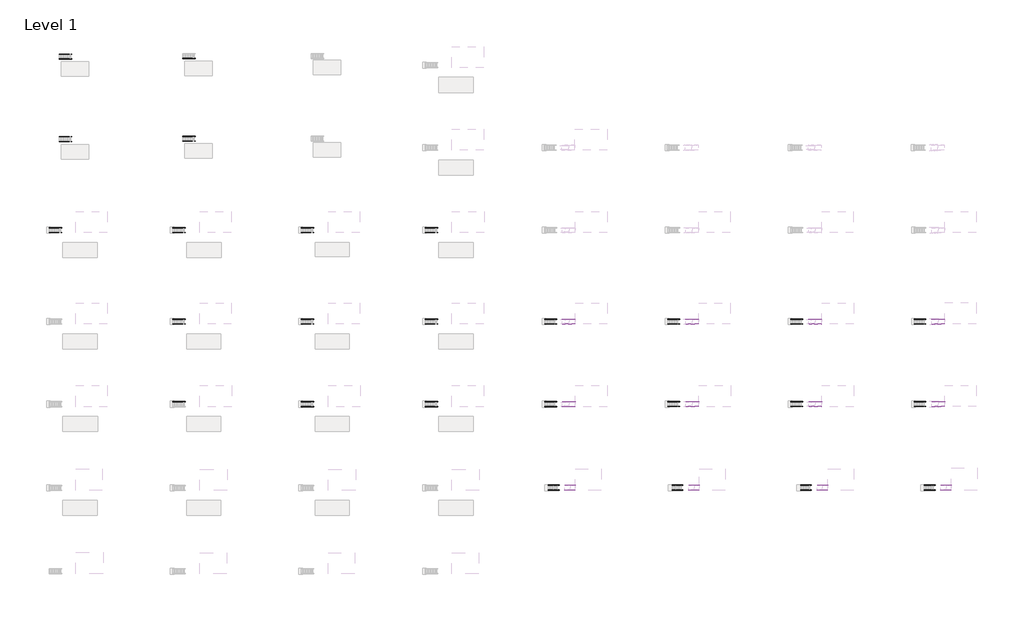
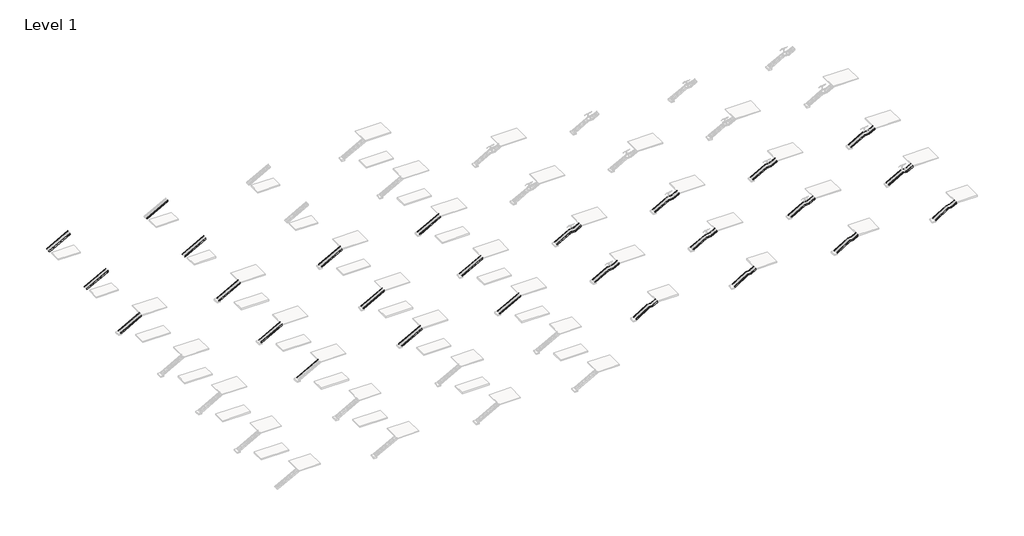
# One storey, part 35 of 36: 98 members.
"""IFC4 building model written with IfcOpenShell, lengths in millimetres."""

from ifc_helpers import new_model, si_unit, frame, origin, place, context, project, spatial, polyline, outline, extrude, element, save

model = new_model("IFC4")

# Units and contexts
model_context = context("Model", 3, world=origin())
ifc_project = project(units=[si_unit("LENGTHUNIT", "METRE", prefix="MILLI")], contexts=[model_context])

# Site, building, storey
site = spatial("IfcSite", under=ifc_project)
building = spatial("IfcBuilding", under=site)
storey = spatial("IfcBuildingStorey", under=building, Name="Level 1", Elevation=0.0)

# Members
placement = place(None, origin())
element("IfcMember", 1, ObjectType="Stringer - 2\" Width", at=placement, inside=storey, context=model_context, shape_type="SweptSolid", body=[
    extrude(outline(polyline([(179.6072535, 84297.8048368), (0.0, 84297.8048368), (0.0, 84572.2385153), (1916.7928571, 87926.6260153), (2208.8928571, 87849.0546432), (179.6072535, 84297.8048368)])), frame((0.0, -17954.2990002, 0.0), z_axis=(0.0, 1.0, 0.0), x_axis=(0.0, 0.0, 1.0)), (0.0, 0.0, 1.0), 50.8),
])
element("IfcMember", 2, ObjectType="Stringer - 2\" Width", at=placement, inside=storey, context=model_context, shape_type="SweptSolid", body=[
    extrude(outline(polyline([(179.6072535, 84297.8048368), (0.0, 84297.8048368), (0.0, 84572.2385153), (1916.7928571, 87926.6260153), (2208.8928571, 87849.0546432), (179.6072535, 84297.8048368)])), frame((0.0, -18919.4990002, 0.0), z_axis=(0.0, 1.0, 0.0), x_axis=(0.0, 0.0, 1.0)), (0.0, 0.0, 1.0), 50.8),
])
element("IfcMember", 3, ObjectType="Stringer - 2\" Width", at=placement, inside=storey, context=model_context, shape_type="SweptSolid", body=[
    extrude(outline(polyline([(2208.8928571, 88915.8546432), (1916.7928571, 88993.4260153), (2746.037898, 90444.6048368), (3048.0, 90444.6048368), (3048.0, 90384.2921432), (2208.8928571, 88915.8546432)])), frame((0.0, -17954.2990002, 0.0), z_axis=(0.0, 1.0, 0.0), x_axis=(0.0, 0.0, 1.0)), (0.0, 0.0, 1.0), 50.8),
])
element("IfcMember", 4, ObjectType="Stringer - 2\" Width", at=placement, inside=storey, context=model_context, shape_type="SweptSolid", body=[
    extrude(outline(polyline([(2208.8928571, 88915.8546432), (1916.7928571, 88993.4260153), (2746.037898, 90444.6048368), (3048.0, 90444.6048368), (3048.0, 90384.2921432), (2208.8928571, 88915.8546432)])), frame((0.0, -18919.4990002, 0.0), z_axis=(0.0, 1.0, 0.0), x_axis=(0.0, 0.0, 1.0)), (0.0, 0.0, 1.0), 50.8),
])
element("IfcMember", 5, ObjectType="Stringer - 2\" Width", at=placement, inside=storey, context=model_context, shape_type="SweptSolid", body=[
    extrude(outline(polyline([(1916.7928571, 88993.4260153), (2208.8928571, 88915.8546432), (2208.8928571, 87849.0546432), (1916.7928571, 87926.6260153), (1916.7928571, 88993.4260153)])), frame((0.0, -17954.2990002, 0.0), z_axis=(0.0, 1.0, 0.0), x_axis=(0.0, 0.0, 1.0)), (0.0, 0.0, 1.0), 50.8),
])
element("IfcMember", 6, ObjectType="Stringer - 2\" Width", at=placement, inside=storey, context=model_context, shape_type="SweptSolid", body=[
    extrude(outline(polyline([(2208.8928571, 87849.0546432), (1916.7928571, 87926.6260153), (1916.7928571, 88993.4260153), (2208.8928571, 88915.8546432), (2208.8928571, 87849.0546432)])), frame((0.0, -18919.4990002, 0.0), z_axis=(0.0, 1.0, 0.0), x_axis=(0.0, 0.0, 1.0)), (0.0, 0.0, 1.0), 50.8),
])
element("IfcMember", 7, ObjectType="Stringer - 2\" Width", at=placement, inside=storey, context=model_context, shape_type="SweptSolid", body=[
    extrude(outline(polyline([(177.1989729, 12116.1449767), (0.0, 12116.1449767), (0.0, 12401.2806113), (2753.9260175, 17450.1449767), (3086.6535184, 17450.1449767), (177.1989729, 12116.1449767)])), frame((0.0, 35007.264764, 0.0), z_axis=(0.0, 1.0, 0.0), x_axis=(0.0, 0.0, 1.0)), (0.0, 0.0, 1.0), 50.8),
])
element("IfcMember", 8, ObjectType="Stringer - 2\" Width", at=placement, inside=storey, context=model_context, shape_type="SweptSolid", body=[
    extrude(outline(polyline([(177.1989729, 12116.1449767), (0.0, 12116.1449767), (0.0, 12401.2806113), (2753.9260175, 17450.1449767), (3086.6535184, 17450.1449767), (177.1989729, 12116.1449767)])), frame((0.0, 34042.064764, 0.0), z_axis=(0.0, 1.0, 0.0), x_axis=(0.0, 0.0, 1.0)), (0.0, 0.0, 1.0), 50.8),
])
element("IfcMember", 9, ObjectType="Stringer - 2\" Width", at=placement, inside=storey, context=model_context, shape_type="SweptSolid", body=[
    extrude(outline(polyline([(177.1989729, -12447.6373599), (0.0, -12447.6373599), (0.0, -12162.5017253), (2753.9260175, -7113.6373599), (3086.6535184, -7113.6373599), (177.1989729, -12447.6373599)])), frame((0.0, 34930.0739583, 0.0), z_axis=(0.0, 1.0, 0.0), x_axis=(0.0, 0.0, 1.0)), (0.0, 0.0, 1.0), 50.8),
])
element("IfcMember", 10, ObjectType="Stringer - 2\" Width", at=placement, inside=storey, context=model_context, shape_type="SweptSolid", body=[
    extrude(outline(polyline([(177.1989729, -12447.6373599), (0.0, -12447.6373599), (0.0, -12162.5017253), (2753.9260175, -7113.6373599), (3086.6535184, -7113.6373599), (177.1989729, -12447.6373599)])), frame((0.0, 33964.8739583, 0.0), z_axis=(0.0, 1.0, 0.0), x_axis=(0.0, 0.0, 1.0)), (0.0, 0.0, 1.0), 50.8),
])
element("IfcMember", 11, ObjectType="Stringer - 2\" Width", at=placement, inside=storey, context=model_context, shape_type="SweptSolid", body=[
    extrude(outline(polyline([(177.1989729, -14498.1164794), (0.0, -14498.1164794), (0.0, -14212.9808448), (2753.9260175, -9164.1164794), (3086.6535184, -9164.1164794), (177.1989729, -14498.1164794)])), frame((0.0, 16760.4395941, 0.0), z_axis=(0.0, 1.0, 0.0), x_axis=(0.0, 0.0, 1.0)), (0.0, 0.0, 1.0), 50.8),
])
element("IfcMember", 12, ObjectType="Stringer - 2\" Width", at=placement, inside=storey, context=model_context, shape_type="SweptSolid", body=[
    extrude(outline(polyline([(177.1989729, -14498.1164794), (0.0, -14498.1164794), (0.0, -14212.9808448), (2753.9260175, -9164.1164794), (3086.6535184, -9164.1164794), (177.1989729, -14498.1164794)])), frame((0.0, 15795.2395941, 0.0), z_axis=(0.0, 1.0, 0.0), x_axis=(0.0, 0.0, 1.0)), (0.0, 0.0, 1.0), 50.8),
])
element("IfcMember", 13, ObjectType="Stringer - 2\" Width", at=placement, inside=storey, context=model_context, shape_type="SweptSolid", body=[
    extrude(outline(polyline([(177.1989729, 10178.8572927), (0.0, 10178.8572927), (0.0, 10463.9929272), (2753.9260175, 15512.8572927), (3086.6535184, 15512.8572927), (177.1989729, 10178.8572927)])), frame((0.0, -17954.2990002, 0.0), z_axis=(0.0, 1.0, 0.0), x_axis=(0.0, 0.0, 1.0)), (0.0, 0.0, 1.0), 50.8),
])
element("IfcMember", 14, ObjectType="Stringer - 2\" Width", at=placement, inside=storey, context=model_context, shape_type="SweptSolid", body=[
    extrude(outline(polyline([(177.1989729, 10178.8572927), (0.0, 10178.8572927), (0.0, 10463.9929272), (2753.9260175, 15512.8572927), (3086.6535184, 15512.8572927), (177.1989729, 10178.8572927)])), frame((0.0, -1486.3855758, 0.0), z_axis=(0.0, 1.0, 0.0), x_axis=(0.0, 0.0, 1.0)), (0.0, 0.0, 1.0), 50.8),
])
element("IfcMember", 15, ObjectType="Stringer - 2\" Width", at=placement, inside=storey, context=model_context, shape_type="SweptSolid", body=[
    extrude(outline(polyline([(177.1989729, 10178.8572927), (0.0, 10178.8572927), (0.0, 10463.9929272), (2753.9260175, 15512.8572927), (3086.6535184, 15512.8572927), (177.1989729, 10178.8572927)])), frame((0.0, -2451.5855758, 0.0), z_axis=(0.0, 1.0, 0.0), x_axis=(0.0, 0.0, 1.0)), (0.0, 0.0, 1.0), 50.8),
])
element("IfcMember", 16, ObjectType="Stringer - 2\" Width", at=placement, inside=storey, context=model_context, shape_type="SweptSolid", body=[
    extrude(outline(polyline([(177.1989729, 10178.8572927), (0.0, 10178.8572927), (0.0, 10463.9929272), (2753.9260175, 15512.8572927), (3086.6535184, 15512.8572927), (177.1989729, 10178.8572927)])), frame((0.0, 16760.4395941, 0.0), z_axis=(0.0, 1.0, 0.0), x_axis=(0.0, 0.0, 1.0)), (0.0, 0.0, 1.0), 50.8),
])
element("IfcMember", 17, ObjectType="Stringer - 2\" Width", at=placement, inside=storey, context=model_context, shape_type="SweptSolid", body=[
    extrude(outline(polyline([(177.1989729, 10178.8572927), (0.0, 10178.8572927), (0.0, 10463.9929272), (2753.9260175, 15512.8572927), (3086.6535184, 15512.8572927), (177.1989729, 10178.8572927)])), frame((0.0, 15795.2395941, 0.0), z_axis=(0.0, 1.0, 0.0), x_axis=(0.0, 0.0, 1.0)), (0.0, 0.0, 1.0), 50.8),
])
element("IfcMember", 18, ObjectType="Stringer - 2\" Width", at=placement, inside=storey, context=model_context, shape_type="SweptSolid", body=[
    extrude(outline(polyline([(177.1989729, 35782.0572927), (0.0, 35782.0572927), (0.0, 36067.1929272), (2753.9260175, 41116.0572927), (3086.6535184, 41116.0572927), (177.1989729, 35782.0572927)])), frame((0.0, -17954.2990002, 0.0), z_axis=(0.0, 1.0, 0.0), x_axis=(0.0, 0.0, 1.0)), (0.0, 0.0, 1.0), 50.8),
])
element("IfcMember", 19, ObjectType="Stringer - 2\" Width", at=placement, inside=storey, context=model_context, shape_type="SweptSolid", body=[
    extrude(outline(polyline([(177.1989729, 35782.0572927), (0.0, 35782.0572927), (0.0, 36067.1929272), (2753.9260175, 41116.0572927), (3086.6535184, 41116.0572927), (177.1989729, 35782.0572927)])), frame((0.0, -18919.4990002, 0.0), z_axis=(0.0, 1.0, 0.0), x_axis=(0.0, 0.0, 1.0)), (0.0, 0.0, 1.0), 50.8),
])
element("IfcMember", 20, ObjectType="Stringer - 2\" Width", at=placement, inside=storey, context=model_context, shape_type="SweptSolid", body=[
    extrude(outline(polyline([(177.1989729, 35782.0572927), (0.0, 35782.0572927), (0.0, 36067.1929272), (2753.9260175, 41116.0572927), (3086.6535184, 41116.0572927), (177.1989729, 35782.0572927)])), frame((0.0, -1486.3855758, 0.0), z_axis=(0.0, 1.0, 0.0), x_axis=(0.0, 0.0, 1.0)), (0.0, 0.0, 1.0), 50.8),
])
element("IfcMember", 21, ObjectType="Stringer - 2\" Width", at=placement, inside=storey, context=model_context, shape_type="SweptSolid", body=[
    extrude(outline(polyline([(177.1989729, 35782.0572927), (0.0, 35782.0572927), (0.0, 36067.1929272), (2753.9260175, 41116.0572927), (3086.6535184, 41116.0572927), (177.1989729, 35782.0572927)])), frame((0.0, -2451.5855758, 0.0), z_axis=(0.0, 1.0, 0.0), x_axis=(0.0, 0.0, 1.0)), (0.0, 0.0, 1.0), 50.8),
])
element("IfcMember", 22, ObjectType="Stringer - 2\" Width", at=placement, inside=storey, context=model_context, shape_type="SweptSolid", body=[
    extrude(outline(polyline([(177.1989729, 35782.0572927), (0.0, 35782.0572927), (0.0, 36067.1929272), (2753.9260175, 41116.0572927), (3086.6535184, 41116.0572927), (177.1989729, 35782.0572927)])), frame((0.0, 16760.4395941, 0.0), z_axis=(0.0, 1.0, 0.0), x_axis=(0.0, 0.0, 1.0)), (0.0, 0.0, 1.0), 50.8),
])
element("IfcMember", 23, ObjectType="Stringer - 2\" Width", at=placement, inside=storey, context=model_context, shape_type="SweptSolid", body=[
    extrude(outline(polyline([(177.1989729, 35782.0572927), (0.0, 35782.0572927), (0.0, 36067.1929272), (2753.9260175, 41116.0572927), (3086.6535184, 41116.0572927), (177.1989729, 35782.0572927)])), frame((0.0, 15795.2395941, 0.0), z_axis=(0.0, 1.0, 0.0), x_axis=(0.0, 0.0, 1.0)), (0.0, 0.0, 1.0), 50.8),
])
element("IfcMember", 24, ObjectType="Stringer - 2\" Width", at=placement, inside=storey, context=model_context, shape_type="SweptSolid", body=[
    extrude(outline(polyline([(177.1989729, 60459.0310647), (0.0, 60459.0310647), (0.0, 60744.1666993), (2753.9260175, 65793.0310647), (3086.6535184, 65793.0310647), (177.1989729, 60459.0310647)])), frame((0.0, -17954.2990002, 0.0), z_axis=(0.0, 1.0, 0.0), x_axis=(0.0, 0.0, 1.0)), (0.0, 0.0, 1.0), 50.8),
])
element("IfcMember", 25, ObjectType="Stringer - 2\" Width", at=placement, inside=storey, context=model_context, shape_type="SweptSolid", body=[
    extrude(outline(polyline([(177.1989729, 60459.0310647), (0.0, 60459.0310647), (0.0, 60744.1666993), (2753.9260175, 65793.0310647), (3086.6535184, 65793.0310647), (177.1989729, 60459.0310647)])), frame((0.0, -18919.4990002, 0.0), z_axis=(0.0, 1.0, 0.0), x_axis=(0.0, 0.0, 1.0)), (0.0, 0.0, 1.0), 50.8),
])
element("IfcMember", 26, ObjectType="Stringer - 2\" Width", at=placement, inside=storey, context=model_context, shape_type="SweptSolid", body=[
    extrude(outline(polyline([(177.1989729, 60459.0310647), (0.0, 60459.0310647), (0.0, 60744.1666993), (2753.9260175, 65793.0310647), (3086.6535184, 65793.0310647), (177.1989729, 60459.0310647)])), frame((0.0, -1486.3855758, 0.0), z_axis=(0.0, 1.0, 0.0), x_axis=(0.0, 0.0, 1.0)), (0.0, 0.0, 1.0), 50.8),
])
element("IfcMember", 27, ObjectType="Stringer - 2\" Width", at=placement, inside=storey, context=model_context, shape_type="SweptSolid", body=[
    extrude(outline(polyline([(177.1989729, 60459.0310647), (0.0, 60459.0310647), (0.0, 60744.1666993), (2753.9260175, 65793.0310647), (3086.6535184, 65793.0310647), (177.1989729, 60459.0310647)])), frame((0.0, -2451.5855758, 0.0), z_axis=(0.0, 1.0, 0.0), x_axis=(0.0, 0.0, 1.0)), (0.0, 0.0, 1.0), 50.8),
])
element("IfcMember", 28, ObjectType="Stringer - 2\" Width", at=placement, inside=storey, context=model_context, shape_type="SweptSolid", body=[
    extrude(outline(polyline([(177.1989729, 60459.0310647), (0.0, 60459.0310647), (0.0, 60744.1666993), (2753.9260175, 65793.0310647), (3086.6535184, 65793.0310647), (177.1989729, 60459.0310647)])), frame((0.0, 16760.4395941, 0.0), z_axis=(0.0, 1.0, 0.0), x_axis=(0.0, 0.0, 1.0)), (0.0, 0.0, 1.0), 50.8),
])
element("IfcMember", 29, ObjectType="Stringer - 2\" Width", at=placement, inside=storey, context=model_context, shape_type="SweptSolid", body=[
    extrude(outline(polyline([(177.1989729, 60459.0310647), (0.0, 60459.0310647), (0.0, 60744.1666993), (2753.9260175, 65793.0310647), (3086.6535184, 65793.0310647), (177.1989729, 60459.0310647)])), frame((0.0, 15795.2395941, 0.0), z_axis=(0.0, 1.0, 0.0), x_axis=(0.0, 0.0, 1.0)), (0.0, 0.0, 1.0), 50.8),
])
element("IfcMember", 30, ObjectType="Stringer - 2\" Width", at=placement, inside=storey, context=model_context, shape_type="SweptSolid", body=[
    extrude(outline(polyline([(177.1989729, -12447.6373599), (0.0, -12447.6373599), (0.0, -12162.5017253), (2753.9260175, -7113.6373599), (3086.6535184, -7113.6373599), (177.1989729, -12447.6373599)])), frame((0.0, 51397.9873827, 0.0), z_axis=(0.0, 1.0, 0.0), x_axis=(0.0, 0.0, 1.0)), (0.0, 0.0, 1.0), 50.8),
])
element("IfcMember", 31, ObjectType="Stringer - 2\" Width", at=placement, inside=storey, context=model_context, shape_type="SweptSolid", body=[
    extrude(outline(polyline([(177.1989729, -12447.6373599), (0.0, -12447.6373599), (0.0, -12162.5017253), (2753.9260175, -7113.6373599), (3086.6535184, -7113.6373599), (177.1989729, -12447.6373599)])), frame((0.0, 50432.7873827, 0.0), z_axis=(0.0, 1.0, 0.0), x_axis=(0.0, 0.0, 1.0)), (0.0, 0.0, 1.0), 50.8),
])
element("IfcMember", 32, ObjectType="Stringer - 2\" Width", at=placement, inside=storey, context=model_context, shape_type="SweptSolid", body=[
    extrude(outline(polyline([(177.1989729, 12116.1449767), (0.0, 12116.1449767), (0.0, 12401.2806113), (2753.9260175, 17450.1449767), (3086.6535184, 17450.1449767), (177.1989729, 12116.1449767)])), frame((0.0, 50535.7904464, 0.0), z_axis=(0.0, 1.0, 0.0), x_axis=(0.0, 0.0, 1.0)), (0.0, 0.0, 1.0), 50.8),
])
element("IfcMember", 33, ObjectType="Stringer - 2\" Width", at=placement, inside=storey, context=model_context, shape_type="SweptSolid", body=[
    extrude(outline(polyline([(179.6072535, 84297.8048368), (0.0, 84297.8048368), (0.0, 84572.2385153), (1916.7928571, 87926.6260153), (2208.8928571, 87849.0546432), (179.6072535, 84297.8048368)])), frame((0.0, -1486.3855758, 0.0), z_axis=(0.0, 1.0, 0.0), x_axis=(0.0, 0.0, 1.0)), (0.0, 0.0, 1.0), 50.8),
])
element("IfcMember", 34, ObjectType="Stringer - 2\" Width", at=placement, inside=storey, context=model_context, shape_type="SweptSolid", body=[
    extrude(outline(polyline([(179.6072535, 84297.8048368), (0.0, 84297.8048368), (0.0, 84572.2385153), (1916.7928571, 87926.6260153), (2208.8928571, 87849.0546432), (179.6072535, 84297.8048368)])), frame((0.0, -2451.5855758, 0.0), z_axis=(0.0, 1.0, 0.0), x_axis=(0.0, 0.0, 1.0)), (0.0, 0.0, 1.0), 50.8),
])
element("IfcMember", 35, ObjectType="Stringer - 2\" Width", at=placement, inside=storey, context=model_context, shape_type="SweptSolid", body=[
    extrude(outline(polyline([(2208.8928571, 88915.8546432), (1916.7928571, 88993.4260153), (2746.037898, 90444.6048368), (3048.0, 90444.6048368), (3048.0, 90384.2921432), (2208.8928571, 88915.8546432)])), frame((0.0, -1486.3855758, 0.0), z_axis=(0.0, 1.0, 0.0), x_axis=(0.0, 0.0, 1.0)), (0.0, 0.0, 1.0), 50.8),
])
element("IfcMember", 36, ObjectType="Stringer - 2\" Width", at=placement, inside=storey, context=model_context, shape_type="SweptSolid", body=[
    extrude(outline(polyline([(2208.8928571, 88915.8546432), (1916.7928571, 88993.4260153), (2746.037898, 90444.6048368), (3048.0, 90444.6048368), (3048.0, 90384.2921432), (2208.8928571, 88915.8546432)])), frame((0.0, -2451.5855758, 0.0), z_axis=(0.0, 1.0, 0.0), x_axis=(0.0, 0.0, 1.0)), (0.0, 0.0, 1.0), 50.8),
])
element("IfcMember", 37, ObjectType="Stringer - 2\" Width", at=placement, inside=storey, context=model_context, shape_type="SweptSolid", body=[
    extrude(outline(polyline([(1916.7928571, 88993.4260153), (2208.8928571, 88915.8546432), (2208.8928571, 87849.0546432), (1916.7928571, 87926.6260153), (1916.7928571, 88993.4260153)])), frame((0.0, -1486.3855758, 0.0), z_axis=(0.0, 1.0, 0.0), x_axis=(0.0, 0.0, 1.0)), (0.0, 0.0, 1.0), 50.8),
])
element("IfcMember", 38, ObjectType="Stringer - 2\" Width", at=placement, inside=storey, context=model_context, shape_type="SweptSolid", body=[
    extrude(outline(polyline([(2208.8928571, 87849.0546432), (1916.7928571, 87926.6260153), (1916.7928571, 88993.4260153), (2208.8928571, 88915.8546432), (2208.8928571, 87849.0546432)])), frame((0.0, -2451.5855758, 0.0), z_axis=(0.0, 1.0, 0.0), x_axis=(0.0, 0.0, 1.0)), (0.0, 0.0, 1.0), 50.8),
])
element("IfcMember", 39, ObjectType="Stringer - 2\" Width", at=placement, inside=storey, context=model_context, shape_type="SweptSolid", body=[
    extrude(outline(polyline([(179.6072535, 108850.2736551), (0.0, 108850.2736551), (0.0, 109124.7073335), (1916.7928571, 112479.0948335), (2208.8928571, 112401.5234614), (179.6072535, 108850.2736551)])), frame((0.0, -17945.4846057, 0.0), z_axis=(0.0, 1.0, 0.0), x_axis=(0.0, 0.0, 1.0)), (0.0, 0.0, 1.0), 50.8),
])
element("IfcMember", 40, ObjectType="Stringer - 2\" Width", at=placement, inside=storey, context=model_context, shape_type="SweptSolid", body=[
    extrude(outline(polyline([(179.6072535, 108850.2736551), (0.0, 108850.2736551), (0.0, 109124.7073335), (1916.7928571, 112479.0948335), (2208.8928571, 112401.5234614), (179.6072535, 108850.2736551)])), frame((0.0, -18910.6846057, 0.0), z_axis=(0.0, 1.0, 0.0), x_axis=(0.0, 0.0, 1.0)), (0.0, 0.0, 1.0), 50.8),
])
element("IfcMember", 41, ObjectType="Stringer - 2\" Width", at=placement, inside=storey, context=model_context, shape_type="SweptSolid", body=[
    extrude(outline(polyline([(2208.8928571, 113468.3234614), (1916.7928571, 113545.8948335), (2746.037898, 114997.0736551), (3048.0, 114997.0736551), (3048.0, 114936.7609614), (2208.8928571, 113468.3234614)])), frame((0.0, -17945.4846057, 0.0), z_axis=(0.0, 1.0, 0.0), x_axis=(0.0, 0.0, 1.0)), (0.0, 0.0, 1.0), 50.8),
])
element("IfcMember", 42, ObjectType="Stringer - 2\" Width", at=placement, inside=storey, context=model_context, shape_type="SweptSolid", body=[
    extrude(outline(polyline([(2208.8928571, 113468.3234614), (1916.7928571, 113545.8948335), (2746.037898, 114997.0736551), (3048.0, 114997.0736551), (3048.0, 114936.7609614), (2208.8928571, 113468.3234614)])), frame((0.0, -18910.6846057, 0.0), z_axis=(0.0, 1.0, 0.0), x_axis=(0.0, 0.0, 1.0)), (0.0, 0.0, 1.0), 50.8),
])
element("IfcMember", 43, ObjectType="Stringer - 2\" Width", at=placement, inside=storey, context=model_context, shape_type="SweptSolid", body=[
    extrude(outline(polyline([(1916.7928571, 113545.8948335), (2208.8928571, 113468.3234614), (2208.8928571, 112401.5234614), (1916.7928571, 112479.0948335), (1916.7928571, 113545.8948335)])), frame((0.0, -17945.4846057, 0.0), z_axis=(0.0, 1.0, 0.0), x_axis=(0.0, 0.0, 1.0)), (0.0, 0.0, 1.0), 50.8),
])
element("IfcMember", 44, ObjectType="Stringer - 2\" Width", at=placement, inside=storey, context=model_context, shape_type="SweptSolid", body=[
    extrude(outline(polyline([(2208.8928571, 112401.5234614), (1916.7928571, 112479.0948335), (1916.7928571, 113545.8948335), (2208.8928571, 113468.3234614), (2208.8928571, 112401.5234614)])), frame((0.0, -18910.6846057, 0.0), z_axis=(0.0, 1.0, 0.0), x_axis=(0.0, 0.0, 1.0)), (0.0, 0.0, 1.0), 50.8),
])
element("IfcMember", 45, ObjectType="Stringer - 2\" Width", at=placement, inside=storey, context=model_context, shape_type="SweptSolid", body=[
    extrude(outline(polyline([(179.6072535, 108850.2736551), (0.0, 108850.2736551), (0.0, 109124.7073335), (1916.7928571, 112479.0948335), (2208.8928571, 112401.5234614), (179.6072535, 108850.2736551)])), frame((0.0, -1477.5711813, 0.0), z_axis=(0.0, 1.0, 0.0), x_axis=(0.0, 0.0, 1.0)), (0.0, 0.0, 1.0), 50.8),
])
element("IfcMember", 46, ObjectType="Stringer - 2\" Width", at=placement, inside=storey, context=model_context, shape_type="SweptSolid", body=[
    extrude(outline(polyline([(179.6072535, 108850.2736551), (0.0, 108850.2736551), (0.0, 109124.7073335), (1916.7928571, 112479.0948335), (2208.8928571, 112401.5234614), (179.6072535, 108850.2736551)])), frame((0.0, -2442.7711813, 0.0), z_axis=(0.0, 1.0, 0.0), x_axis=(0.0, 0.0, 1.0)), (0.0, 0.0, 1.0), 50.8),
])
element("IfcMember", 47, ObjectType="Stringer - 2\" Width", at=placement, inside=storey, context=model_context, shape_type="SweptSolid", body=[
    extrude(outline(polyline([(2208.8928571, 113468.3234614), (1916.7928571, 113545.8948335), (2746.037898, 114997.0736551), (3048.0, 114997.0736551), (3048.0, 114936.7609614), (2208.8928571, 113468.3234614)])), frame((0.0, -1477.5711813, 0.0), z_axis=(0.0, 1.0, 0.0), x_axis=(0.0, 0.0, 1.0)), (0.0, 0.0, 1.0), 50.8),
])
element("IfcMember", 48, ObjectType="Stringer - 2\" Width", at=placement, inside=storey, context=model_context, shape_type="SweptSolid", body=[
    extrude(outline(polyline([(2208.8928571, 113468.3234614), (1916.7928571, 113545.8948335), (2746.037898, 114997.0736551), (3048.0, 114997.0736551), (3048.0, 114936.7609614), (2208.8928571, 113468.3234614)])), frame((0.0, -2442.7711813, 0.0), z_axis=(0.0, 1.0, 0.0), x_axis=(0.0, 0.0, 1.0)), (0.0, 0.0, 1.0), 50.8),
])
element("IfcMember", 49, ObjectType="Stringer - 2\" Width", at=placement, inside=storey, context=model_context, shape_type="SweptSolid", body=[
    extrude(outline(polyline([(1916.7928571, 113545.8948335), (2208.8928571, 113468.3234614), (2208.8928571, 112401.5234614), (1916.7928571, 112479.0948335), (1916.7928571, 113545.8948335)])), frame((0.0, -1477.5711813, 0.0), z_axis=(0.0, 1.0, 0.0), x_axis=(0.0, 0.0, 1.0)), (0.0, 0.0, 1.0), 50.8),
])
element("IfcMember", 50, ObjectType="Stringer - 2\" Width", at=placement, inside=storey, context=model_context, shape_type="SweptSolid", body=[
    extrude(outline(polyline([(2208.8928571, 112401.5234614), (1916.7928571, 112479.0948335), (1916.7928571, 113545.8948335), (2208.8928571, 113468.3234614), (2208.8928571, 112401.5234614)])), frame((0.0, -2442.7711813, 0.0), z_axis=(0.0, 1.0, 0.0), x_axis=(0.0, 0.0, 1.0)), (0.0, 0.0, 1.0), 50.8),
])
element("IfcMember", 51, ObjectType="Stringer - 2\" Width", at=placement, inside=storey, context=model_context, shape_type="SweptSolid", body=[
    extrude(outline(polyline([(179.6072535, 133400.2474271), (0.0, 133400.2474271), (0.0, 133674.6811056), (1916.7928571, 137029.0686056), (2208.8928571, 136951.4972335), (179.6072535, 133400.2474271)])), frame((0.0, -17945.4846057, 0.0), z_axis=(0.0, 1.0, 0.0), x_axis=(0.0, 0.0, 1.0)), (0.0, 0.0, 1.0), 50.8),
])
element("IfcMember", 52, ObjectType="Stringer - 2\" Width", at=placement, inside=storey, context=model_context, shape_type="SweptSolid", body=[
    extrude(outline(polyline([(179.6072535, 133400.2474271), (0.0, 133400.2474271), (0.0, 133674.6811056), (1916.7928571, 137029.0686056), (2208.8928571, 136951.4972335), (179.6072535, 133400.2474271)])), frame((0.0, -18910.6846057, 0.0), z_axis=(0.0, 1.0, 0.0), x_axis=(0.0, 0.0, 1.0)), (0.0, 0.0, 1.0), 50.8),
])
element("IfcMember", 53, ObjectType="Stringer - 2\" Width", at=placement, inside=storey, context=model_context, shape_type="SweptSolid", body=[
    extrude(outline(polyline([(2208.8928571, 138018.2972335), (1916.7928571, 138095.8686056), (2746.037898, 139547.0474271), (3048.0, 139547.0474271), (3048.0, 139486.7347335), (2208.8928571, 138018.2972335)])), frame((0.0, -17945.4846057, 0.0), z_axis=(0.0, 1.0, 0.0), x_axis=(0.0, 0.0, 1.0)), (0.0, 0.0, 1.0), 50.8),
])
element("IfcMember", 54, ObjectType="Stringer - 2\" Width", at=placement, inside=storey, context=model_context, shape_type="SweptSolid", body=[
    extrude(outline(polyline([(2208.8928571, 138018.2972335), (1916.7928571, 138095.8686056), (2746.037898, 139547.0474271), (3048.0, 139547.0474271), (3048.0, 139486.7347335), (2208.8928571, 138018.2972335)])), frame((0.0, -18910.6846057, 0.0), z_axis=(0.0, 1.0, 0.0), x_axis=(0.0, 0.0, 1.0)), (0.0, 0.0, 1.0), 50.8),
])
element("IfcMember", 55, ObjectType="Stringer - 2\" Width", at=placement, inside=storey, context=model_context, shape_type="SweptSolid", body=[
    extrude(outline(polyline([(1916.7928571, 138095.8686056), (2208.8928571, 138018.2972335), (2208.8928571, 136951.4972335), (1916.7928571, 137029.0686056), (1916.7928571, 138095.8686056)])), frame((0.0, -17945.4846057, 0.0), z_axis=(0.0, 1.0, 0.0), x_axis=(0.0, 0.0, 1.0)), (0.0, 0.0, 1.0), 50.8),
])
element("IfcMember", 56, ObjectType="Stringer - 2\" Width", at=placement, inside=storey, context=model_context, shape_type="SweptSolid", body=[
    extrude(outline(polyline([(2208.8928571, 136951.4972335), (1916.7928571, 137029.0686056), (1916.7928571, 138095.8686056), (2208.8928571, 138018.2972335), (2208.8928571, 136951.4972335)])), frame((0.0, -18910.6846057, 0.0), z_axis=(0.0, 1.0, 0.0), x_axis=(0.0, 0.0, 1.0)), (0.0, 0.0, 1.0), 50.8),
])
element("IfcMember", 57, ObjectType="Stringer - 2\" Width", at=placement, inside=storey, context=model_context, shape_type="SweptSolid", body=[
    extrude(outline(polyline([(179.6072535, 133400.2474271), (0.0, 133400.2474271), (0.0, 133674.6811056), (1916.7928571, 137029.0686056), (2208.8928571, 136951.4972335), (179.6072535, 133400.2474271)])), frame((0.0, -1477.5711813, 0.0), z_axis=(0.0, 1.0, 0.0), x_axis=(0.0, 0.0, 1.0)), (0.0, 0.0, 1.0), 50.8),
])
element("IfcMember", 58, ObjectType="Stringer - 2\" Width", at=placement, inside=storey, context=model_context, shape_type="SweptSolid", body=[
    extrude(outline(polyline([(179.6072535, 133400.2474271), (0.0, 133400.2474271), (0.0, 133674.6811056), (1916.7928571, 137029.0686056), (2208.8928571, 136951.4972335), (179.6072535, 133400.2474271)])), frame((0.0, -2442.7711813, 0.0), z_axis=(0.0, 1.0, 0.0), x_axis=(0.0, 0.0, 1.0)), (0.0, 0.0, 1.0), 50.8),
])
element("IfcMember", 59, ObjectType="Stringer - 2\" Width", at=placement, inside=storey, context=model_context, shape_type="SweptSolid", body=[
    extrude(outline(polyline([(2208.8928571, 138018.2972335), (1916.7928571, 138095.8686056), (2746.037898, 139547.0474271), (3048.0, 139547.0474271), (3048.0, 139486.7347335), (2208.8928571, 138018.2972335)])), frame((0.0, -1477.5711813, 0.0), z_axis=(0.0, 1.0, 0.0), x_axis=(0.0, 0.0, 1.0)), (0.0, 0.0, 1.0), 50.8),
])
element("IfcMember", 60, ObjectType="Stringer - 2\" Width", at=placement, inside=storey, context=model_context, shape_type="SweptSolid", body=[
    extrude(outline(polyline([(2208.8928571, 138018.2972335), (1916.7928571, 138095.8686056), (2746.037898, 139547.0474271), (3048.0, 139547.0474271), (3048.0, 139486.7347335), (2208.8928571, 138018.2972335)])), frame((0.0, -2442.7711813, 0.0), z_axis=(0.0, 1.0, 0.0), x_axis=(0.0, 0.0, 1.0)), (0.0, 0.0, 1.0), 50.8),
])
element("IfcMember", 61, ObjectType="Stringer - 2\" Width", at=placement, inside=storey, context=model_context, shape_type="SweptSolid", body=[
    extrude(outline(polyline([(1916.7928571, 138095.8686056), (2208.8928571, 138018.2972335), (2208.8928571, 136951.4972335), (1916.7928571, 137029.0686056), (1916.7928571, 138095.8686056)])), frame((0.0, -1477.5711813, 0.0), z_axis=(0.0, 1.0, 0.0), x_axis=(0.0, 0.0, 1.0)), (0.0, 0.0, 1.0), 50.8),
])
element("IfcMember", 62, ObjectType="Stringer - 2\" Width", at=placement, inside=storey, context=model_context, shape_type="SweptSolid", body=[
    extrude(outline(polyline([(2208.8928571, 136951.4972335), (1916.7928571, 137029.0686056), (1916.7928571, 138095.8686056), (2208.8928571, 138018.2972335), (2208.8928571, 136951.4972335)])), frame((0.0, -2442.7711813, 0.0), z_axis=(0.0, 1.0, 0.0), x_axis=(0.0, 0.0, 1.0)), (0.0, 0.0, 1.0), 50.8),
])
element("IfcMember", 63, ObjectType="Stringer - 2\" Width", at=placement, inside=storey, context=model_context, shape_type="SweptSolid", body=[
    extrude(outline(polyline([(179.6072535, 157950.2211992), (0.0, 157950.2211992), (0.0, 158224.6548776), (1916.7928571, 161579.0423776), (2208.8928571, 161501.4710055), (179.6072535, 157950.2211992)])), frame((0.0, -17945.4846057, 0.0), z_axis=(0.0, 1.0, 0.0), x_axis=(0.0, 0.0, 1.0)), (0.0, 0.0, 1.0), 50.8),
])
element("IfcMember", 64, ObjectType="Stringer - 2\" Width", at=placement, inside=storey, context=model_context, shape_type="SweptSolid", body=[
    extrude(outline(polyline([(179.6072535, 157950.2211992), (0.0, 157950.2211992), (0.0, 158224.6548776), (1916.7928571, 161579.0423776), (2208.8928571, 161501.4710055), (179.6072535, 157950.2211992)])), frame((0.0, -18910.6846057, 0.0), z_axis=(0.0, 1.0, 0.0), x_axis=(0.0, 0.0, 1.0)), (0.0, 0.0, 1.0), 50.8),
])
element("IfcMember", 65, ObjectType="Stringer - 2\" Width", at=placement, inside=storey, context=model_context, shape_type="SweptSolid", body=[
    extrude(outline(polyline([(2208.8928571, 162568.2710055), (1916.7928571, 162645.8423776), (2746.037898, 164097.0211992), (3048.0, 164097.0211992), (3048.0, 164036.7085055), (2208.8928571, 162568.2710055)])), frame((0.0, -17945.4846057, 0.0), z_axis=(0.0, 1.0, 0.0), x_axis=(0.0, 0.0, 1.0)), (0.0, 0.0, 1.0), 50.8),
])
element("IfcMember", 66, ObjectType="Stringer - 2\" Width", at=placement, inside=storey, context=model_context, shape_type="SweptSolid", body=[
    extrude(outline(polyline([(2208.8928571, 162568.2710055), (1916.7928571, 162645.8423776), (2746.037898, 164097.0211992), (3048.0, 164097.0211992), (3048.0, 164036.7085055), (2208.8928571, 162568.2710055)])), frame((0.0, -18910.6846057, 0.0), z_axis=(0.0, 1.0, 0.0), x_axis=(0.0, 0.0, 1.0)), (0.0, 0.0, 1.0), 50.8),
])
element("IfcMember", 67, ObjectType="Stringer - 2\" Width", at=placement, inside=storey, context=model_context, shape_type="SweptSolid", body=[
    extrude(outline(polyline([(1916.7928571, 162645.8423776), (2208.8928571, 162568.2710055), (2208.8928571, 161501.4710055), (1916.7928571, 161579.0423776), (1916.7928571, 162645.8423776)])), frame((0.0, -17945.4846057, 0.0), z_axis=(0.0, 1.0, 0.0), x_axis=(0.0, 0.0, 1.0)), (0.0, 0.0, 1.0), 50.8),
])
element("IfcMember", 68, ObjectType="Stringer - 2\" Width", at=placement, inside=storey, context=model_context, shape_type="SweptSolid", body=[
    extrude(outline(polyline([(2208.8928571, 161501.4710055), (1916.7928571, 161579.0423776), (1916.7928571, 162645.8423776), (2208.8928571, 162568.2710055), (2208.8928571, 161501.4710055)])), frame((0.0, -18910.6846057, 0.0), z_axis=(0.0, 1.0, 0.0), x_axis=(0.0, 0.0, 1.0)), (0.0, 0.0, 1.0), 50.8),
])
element("IfcMember", 69, ObjectType="Stringer - 2\" Width", at=placement, inside=storey, context=model_context, shape_type="SweptSolid", body=[
    extrude(outline(polyline([(179.6072535, 157950.2211992), (0.0, 157950.2211992), (0.0, 158224.6548776), (1916.7928571, 161579.0423776), (2208.8928571, 161501.4710055), (179.6072535, 157950.2211992)])), frame((0.0, -1477.5711813, 0.0), z_axis=(0.0, 1.0, 0.0), x_axis=(0.0, 0.0, 1.0)), (0.0, 0.0, 1.0), 50.8),
])
element("IfcMember", 70, ObjectType="Stringer - 2\" Width", at=placement, inside=storey, context=model_context, shape_type="SweptSolid", body=[
    extrude(outline(polyline([(179.6072535, 157950.2211992), (0.0, 157950.2211992), (0.0, 158224.6548776), (1916.7928571, 161579.0423776), (2208.8928571, 161501.4710055), (179.6072535, 157950.2211992)])), frame((0.0, -2442.7711813, 0.0), z_axis=(0.0, 1.0, 0.0), x_axis=(0.0, 0.0, 1.0)), (0.0, 0.0, 1.0), 50.8),
])
element("IfcMember", 71, ObjectType="Stringer - 2\" Width", at=placement, inside=storey, context=model_context, shape_type="SweptSolid", body=[
    extrude(outline(polyline([(2208.8928571, 162568.2710055), (1916.7928571, 162645.8423776), (2746.037898, 164097.0211992), (3048.0, 164097.0211992), (3048.0, 164036.7085055), (2208.8928571, 162568.2710055)])), frame((0.0, -1477.5711813, 0.0), z_axis=(0.0, 1.0, 0.0), x_axis=(0.0, 0.0, 1.0)), (0.0, 0.0, 1.0), 50.8),
])
element("IfcMember", 72, ObjectType="Stringer - 2\" Width", at=placement, inside=storey, context=model_context, shape_type="SweptSolid", body=[
    extrude(outline(polyline([(2208.8928571, 162568.2710055), (1916.7928571, 162645.8423776), (2746.037898, 164097.0211992), (3048.0, 164097.0211992), (3048.0, 164036.7085055), (2208.8928571, 162568.2710055)])), frame((0.0, -2442.7711813, 0.0), z_axis=(0.0, 1.0, 0.0), x_axis=(0.0, 0.0, 1.0)), (0.0, 0.0, 1.0), 50.8),
])
element("IfcMember", 73, ObjectType="Stringer - 2\" Width", at=placement, inside=storey, context=model_context, shape_type="SweptSolid", body=[
    extrude(outline(polyline([(1916.7928571, 162645.8423776), (2208.8928571, 162568.2710055), (2208.8928571, 161501.4710055), (1916.7928571, 161579.0423776), (1916.7928571, 162645.8423776)])), frame((0.0, -1477.5711813, 0.0), z_axis=(0.0, 1.0, 0.0), x_axis=(0.0, 0.0, 1.0)), (0.0, 0.0, 1.0), 50.8),
])
element("IfcMember", 74, ObjectType="Stringer - 2\" Width", at=placement, inside=storey, context=model_context, shape_type="SweptSolid", body=[
    extrude(outline(polyline([(2208.8928571, 161501.4710055), (1916.7928571, 161579.0423776), (1916.7928571, 162645.8423776), (2208.8928571, 162568.2710055), (2208.8928571, 161501.4710055)])), frame((0.0, -2442.7711813, 0.0), z_axis=(0.0, 1.0, 0.0), x_axis=(0.0, 0.0, 1.0)), (0.0, 0.0, 1.0), 50.8),
])
element("IfcMember", 75, ObjectType="Stringer - 2\" Width", at=placement, inside=storey, context=model_context, shape_type="SweptSolid", body=[
    extrude(outline(polyline([(185.523793, 85046.7647213), (0.0, 85046.7647213), (0.0, 85300.0296404), (1985.5447368, 88443.808807), (2277.6447368, 88359.289549), (185.523793, 85046.7647213)])), frame((0.0, -34610.1173894, 0.0), z_axis=(0.0, 1.0, 0.0), x_axis=(0.0, 0.0, 1.0)), (0.0, 0.0, 1.0), 50.8),
])
element("IfcMember", 76, ObjectType="Stringer - 2\" Width", at=placement, inside=storey, context=model_context, shape_type="SweptSolid", body=[
    extrude(outline(polyline([(185.523793, 85046.7647213), (0.0, 85046.7647213), (0.0, 85300.0296404), (1985.5447368, 88443.808807), (2277.6447368, 88359.289549), (185.523793, 85046.7647213)])), frame((0.0, -35575.3173894, 0.0), z_axis=(0.0, 1.0, 0.0), x_axis=(0.0, 0.0, 1.0)), (0.0, 0.0, 1.0), 50.8),
])
element("IfcMember", 77, ObjectType="Stringer - 2\" Width", at=placement, inside=storey, context=model_context, shape_type="SweptSolid", body=[
    extrude(outline(polyline([(2277.6447368, 89172.089549), (1985.5447368, 89256.608807), (2727.6221564, 90431.5647213), (3048.0, 90431.5647213), (3048.0, 90391.8187157), (2277.6447368, 89172.089549)])), frame((0.0, -34610.1173894, 0.0), z_axis=(0.0, 1.0, 0.0), x_axis=(0.0, 0.0, 1.0)), (0.0, 0.0, 1.0), 50.8),
])
element("IfcMember", 78, ObjectType="Stringer - 2\" Width", at=placement, inside=storey, context=model_context, shape_type="SweptSolid", body=[
    extrude(outline(polyline([(2277.6447368, 89172.089549), (1985.5447368, 89256.608807), (2727.6221564, 90431.5647213), (3048.0, 90431.5647213), (3048.0, 90391.8187157), (2277.6447368, 89172.089549)])), frame((0.0, -35575.3173894, 0.0), z_axis=(0.0, 1.0, 0.0), x_axis=(0.0, 0.0, 1.0)), (0.0, 0.0, 1.0), 50.8),
])
element("IfcMember", 79, ObjectType="Stringer - 2\" Width", at=placement, inside=storey, context=model_context, shape_type="SweptSolid", body=[
    extrude(outline(polyline([(1985.5447368, 89256.608807), (2277.6447368, 89172.089549), (2277.6447368, 88359.289549), (1985.5447368, 88443.808807), (1985.5447368, 89256.608807)])), frame((0.0, -34610.1173894, 0.0), z_axis=(0.0, 1.0, 0.0), x_axis=(0.0, 0.0, 1.0)), (0.0, 0.0, 1.0), 50.8),
])
element("IfcMember", 80, ObjectType="Stringer - 2\" Width", at=placement, inside=storey, context=model_context, shape_type="SweptSolid", body=[
    extrude(outline(polyline([(2277.6447368, 88359.289549), (1985.5447368, 88443.808807), (1985.5447368, 89256.608807), (2277.6447368, 89172.089549), (2277.6447368, 88359.289549)])), frame((0.0, -35575.3173894, 0.0), z_axis=(0.0, 1.0, 0.0), x_axis=(0.0, 0.0, 1.0)), (0.0, 0.0, 1.0), 50.8),
])
element("IfcMember", 81, ObjectType="Stringer - 2\" Width", at=placement, inside=storey, context=model_context, shape_type="SweptSolid", body=[
    extrude(outline(polyline([(185.523793, 109723.7384933), (0.0, 109723.7384933), (0.0, 109977.0034124), (1985.5447368, 113120.7825791), (2277.6447368, 113036.2633211), (185.523793, 109723.7384933)])), frame((0.0, -34610.1173894, 0.0), z_axis=(0.0, 1.0, 0.0), x_axis=(0.0, 0.0, 1.0)), (0.0, 0.0, 1.0), 50.8),
])
element("IfcMember", 82, ObjectType="Stringer - 2\" Width", at=placement, inside=storey, context=model_context, shape_type="SweptSolid", body=[
    extrude(outline(polyline([(185.523793, 109723.7384933), (0.0, 109723.7384933), (0.0, 109977.0034124), (1985.5447368, 113120.7825791), (2277.6447368, 113036.2633211), (185.523793, 109723.7384933)])), frame((0.0, -35575.3173894, 0.0), z_axis=(0.0, 1.0, 0.0), x_axis=(0.0, 0.0, 1.0)), (0.0, 0.0, 1.0), 50.8),
])
element("IfcMember", 83, ObjectType="Stringer - 2\" Width", at=placement, inside=storey, context=model_context, shape_type="SweptSolid", body=[
    extrude(outline(polyline([(2277.6447368, 113849.0633211), (1985.5447368, 113933.5825791), (2727.6221564, 115108.5384933), (3048.0, 115108.5384933), (3048.0, 115068.7924877), (2277.6447368, 113849.0633211)])), frame((0.0, -34610.1173894, 0.0), z_axis=(0.0, 1.0, 0.0), x_axis=(0.0, 0.0, 1.0)), (0.0, 0.0, 1.0), 50.8),
])
element("IfcMember", 84, ObjectType="Stringer - 2\" Width", at=placement, inside=storey, context=model_context, shape_type="SweptSolid", body=[
    extrude(outline(polyline([(2277.6447368, 113849.0633211), (1985.5447368, 113933.5825791), (2727.6221564, 115108.5384933), (3048.0, 115108.5384933), (3048.0, 115068.7924877), (2277.6447368, 113849.0633211)])), frame((0.0, -35575.3173894, 0.0), z_axis=(0.0, 1.0, 0.0), x_axis=(0.0, 0.0, 1.0)), (0.0, 0.0, 1.0), 50.8),
])
element("IfcMember", 85, ObjectType="Stringer - 2\" Width", at=placement, inside=storey, context=model_context, shape_type="SweptSolid", body=[
    extrude(outline(polyline([(1985.5447368, 113933.5825791), (2277.6447368, 113849.0633211), (2277.6447368, 113036.2633211), (1985.5447368, 113120.7825791), (1985.5447368, 113933.5825791)])), frame((0.0, -34610.1173894, 0.0), z_axis=(0.0, 1.0, 0.0), x_axis=(0.0, 0.0, 1.0)), (0.0, 0.0, 1.0), 50.8),
])
element("IfcMember", 86, ObjectType="Stringer - 2\" Width", at=placement, inside=storey, context=model_context, shape_type="SweptSolid", body=[
    extrude(outline(polyline([(2277.6447368, 113036.2633211), (1985.5447368, 113120.7825791), (1985.5447368, 113933.5825791), (2277.6447368, 113849.0633211), (2277.6447368, 113036.2633211)])), frame((0.0, -35575.3173894, 0.0), z_axis=(0.0, 1.0, 0.0), x_axis=(0.0, 0.0, 1.0)), (0.0, 0.0, 1.0), 50.8),
])
element("IfcMember", 87, ObjectType="Stringer - 2\" Width", at=placement, inside=storey, context=model_context, shape_type="SweptSolid", body=[
    extrude(outline(polyline([(185.523793, 135326.9384933), (0.0, 135326.9384933), (0.0, 135580.2034124), (1985.5447368, 138723.9825791), (2277.6447368, 138639.4633211), (185.523793, 135326.9384933)])), frame((0.0, -34610.1173894, 0.0), z_axis=(0.0, 1.0, 0.0), x_axis=(0.0, 0.0, 1.0)), (0.0, 0.0, 1.0), 50.8),
])
element("IfcMember", 88, ObjectType="Stringer - 2\" Width", at=placement, inside=storey, context=model_context, shape_type="SweptSolid", body=[
    extrude(outline(polyline([(185.523793, 135326.9384933), (0.0, 135326.9384933), (0.0, 135580.2034124), (1985.5447368, 138723.9825791), (2277.6447368, 138639.4633211), (185.523793, 135326.9384933)])), frame((0.0, -35575.3173894, 0.0), z_axis=(0.0, 1.0, 0.0), x_axis=(0.0, 0.0, 1.0)), (0.0, 0.0, 1.0), 50.8),
])
element("IfcMember", 89, ObjectType="Stringer - 2\" Width", at=placement, inside=storey, context=model_context, shape_type="SweptSolid", body=[
    extrude(outline(polyline([(2277.6447368, 139452.2633211), (1985.5447368, 139536.7825791), (2727.6221564, 140711.7384933), (3048.0, 140711.7384933), (3048.0, 140671.9924877), (2277.6447368, 139452.2633211)])), frame((0.0, -34610.1173894, 0.0), z_axis=(0.0, 1.0, 0.0), x_axis=(0.0, 0.0, 1.0)), (0.0, 0.0, 1.0), 50.8),
])
element("IfcMember", 90, ObjectType="Stringer - 2\" Width", at=placement, inside=storey, context=model_context, shape_type="SweptSolid", body=[
    extrude(outline(polyline([(2277.6447368, 139452.2633211), (1985.5447368, 139536.7825791), (2727.6221564, 140711.7384933), (3048.0, 140711.7384933), (3048.0, 140671.9924877), (2277.6447368, 139452.2633211)])), frame((0.0, -35575.3173894, 0.0), z_axis=(0.0, 1.0, 0.0), x_axis=(0.0, 0.0, 1.0)), (0.0, 0.0, 1.0), 50.8),
])
element("IfcMember", 91, ObjectType="Stringer - 2\" Width", at=placement, inside=storey, context=model_context, shape_type="SweptSolid", body=[
    extrude(outline(polyline([(1985.5447368, 139536.7825791), (2277.6447368, 139452.2633211), (2277.6447368, 138639.4633211), (1985.5447368, 138723.9825791), (1985.5447368, 139536.7825791)])), frame((0.0, -34610.1173894, 0.0), z_axis=(0.0, 1.0, 0.0), x_axis=(0.0, 0.0, 1.0)), (0.0, 0.0, 1.0), 50.8),
])
element("IfcMember", 92, ObjectType="Stringer - 2\" Width", at=placement, inside=storey, context=model_context, shape_type="SweptSolid", body=[
    extrude(outline(polyline([(2277.6447368, 138639.4633211), (1985.5447368, 138723.9825791), (1985.5447368, 139536.7825791), (2277.6447368, 139452.2633211), (2277.6447368, 138639.4633211)])), frame((0.0, -35575.3173894, 0.0), z_axis=(0.0, 1.0, 0.0), x_axis=(0.0, 0.0, 1.0)), (0.0, 0.0, 1.0), 50.8),
])
element("IfcMember", 93, ObjectType="Stringer - 2\" Width", at=placement, inside=storey, context=model_context, shape_type="SweptSolid", body=[
    extrude(outline(polyline([(185.523793, 160003.9122654), (0.0, 160003.9122654), (0.0, 160257.1771845), (1985.5447368, 163400.9563512), (2277.6447368, 163316.4370931), (185.523793, 160003.9122654)])), frame((0.0, -34610.1173894, 0.0), z_axis=(0.0, 1.0, 0.0), x_axis=(0.0, 0.0, 1.0)), (0.0, 0.0, 1.0), 50.8),
])
element("IfcMember", 94, ObjectType="Stringer - 2\" Width", at=placement, inside=storey, context=model_context, shape_type="SweptSolid", body=[
    extrude(outline(polyline([(185.523793, 160003.9122654), (0.0, 160003.9122654), (0.0, 160257.1771845), (1985.5447368, 163400.9563512), (2277.6447368, 163316.4370931), (185.523793, 160003.9122654)])), frame((0.0, -35575.3173894, 0.0), z_axis=(0.0, 1.0, 0.0), x_axis=(0.0, 0.0, 1.0)), (0.0, 0.0, 1.0), 50.8),
])
element("IfcMember", 95, ObjectType="Stringer - 2\" Width", at=placement, inside=storey, context=model_context, shape_type="SweptSolid", body=[
    extrude(outline(polyline([(2277.6447368, 164129.2370931), (1985.5447368, 164213.7563512), (2727.6221564, 165388.7122654), (3048.0, 165388.7122654), (3048.0, 165348.9662598), (2277.6447368, 164129.2370931)])), frame((0.0, -34610.1173894, 0.0), z_axis=(0.0, 1.0, 0.0), x_axis=(0.0, 0.0, 1.0)), (0.0, 0.0, 1.0), 50.8),
])
element("IfcMember", 96, ObjectType="Stringer - 2\" Width", at=placement, inside=storey, context=model_context, shape_type="SweptSolid", body=[
    extrude(outline(polyline([(2277.6447368, 164129.2370931), (1985.5447368, 164213.7563512), (2727.6221564, 165388.7122654), (3048.0, 165388.7122654), (3048.0, 165348.9662598), (2277.6447368, 164129.2370931)])), frame((0.0, -35575.3173894, 0.0), z_axis=(0.0, 1.0, 0.0), x_axis=(0.0, 0.0, 1.0)), (0.0, 0.0, 1.0), 50.8),
])
element("IfcMember", 97, ObjectType="Stringer - 2\" Width", at=placement, inside=storey, context=model_context, shape_type="SweptSolid", body=[
    extrude(outline(polyline([(1985.5447368, 164213.7563512), (2277.6447368, 164129.2370931), (2277.6447368, 163316.4370931), (1985.5447368, 163400.9563512), (1985.5447368, 164213.7563512)])), frame((0.0, -34610.1173894, 0.0), z_axis=(0.0, 1.0, 0.0), x_axis=(0.0, 0.0, 1.0)), (0.0, 0.0, 1.0), 50.8),
])
element("IfcMember", 98, ObjectType="Stringer - 2\" Width", at=placement, inside=storey, context=model_context, shape_type="SweptSolid", body=[
    extrude(outline(polyline([(2277.6447368, 163316.4370931), (1985.5447368, 163400.9563512), (1985.5447368, 164213.7563512), (2277.6447368, 164129.2370931), (2277.6447368, 163316.4370931)])), frame((0.0, -35575.3173894, 0.0), z_axis=(0.0, 1.0, 0.0), x_axis=(0.0, 0.0, 1.0)), (0.0, 0.0, 1.0), 50.8),
])

save(model, "model.ifc")
